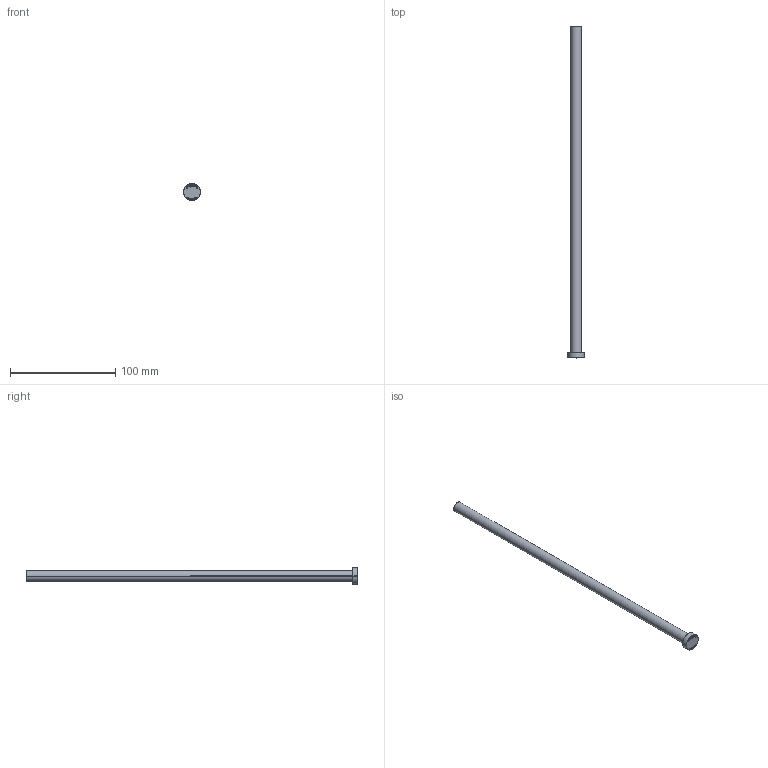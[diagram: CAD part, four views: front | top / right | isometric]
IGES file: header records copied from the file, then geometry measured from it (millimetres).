
Start section: SolidWorks IGES file using analytic representation for surfaces
Global section: file name: C:\Users\User\Downloads\Matripeça 31-08 tar\PB - PINO EXTRATOR TIPO _B_ (CATÁLOGO)\PB10,0\PB10,0315.IGS; native system: SolidWorks 2024; preprocessor: SolidWorks 2024; author: User; date: 260901.150508; units: millimetre
Bounding box: 16 x 315 x 16 mm (x, y, z)
Surface area: 10398.1 mm2 (no closed solid volume)
Topology: 0 solids, 0 shells, 399 faces, 3944 edges, 3944 vertices
Faces by surface type: bspline 385, revolution 14
